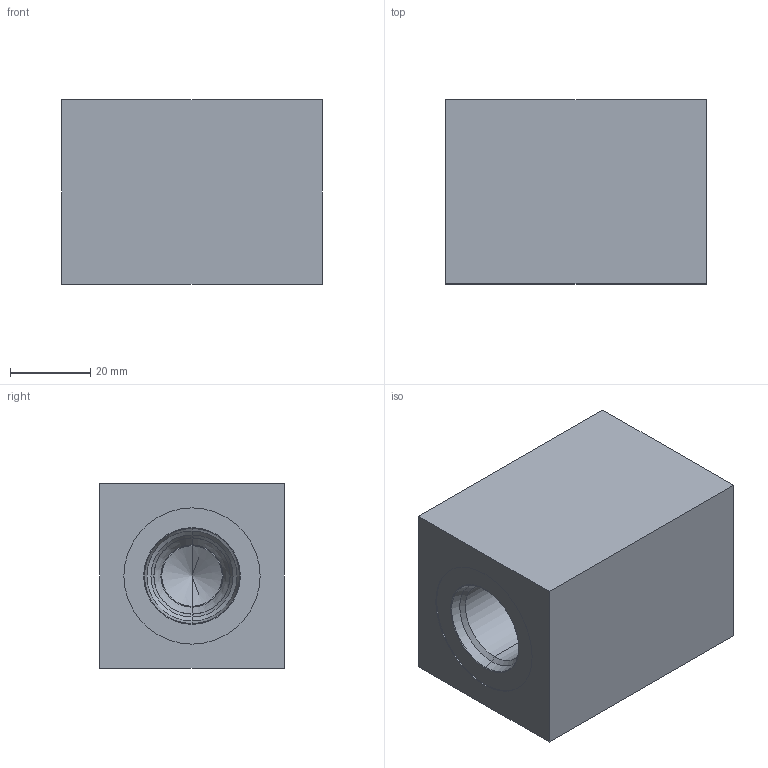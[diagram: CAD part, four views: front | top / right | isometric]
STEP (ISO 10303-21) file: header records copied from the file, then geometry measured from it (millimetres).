
FILE_DESCRIPTION (( 'STEP AP214' ), '1' );
FILE_NAME ('2.13-1007_ISO 7789–22–07–0–98.STEP', '2021-12-17T09:48:20', ( '' ), ( '' ), 'SwSTEP 2.0', 'SolidWorks 2020', '' );
FILE_SCHEMA (( 'AUTOMOTIVE_DESIGN' ));
Length unit declared in the file: millimetre
Products named in the file (1): 2.13-1007_ISO 7789–22–07–0–98
Bounding box: 65 x 46 x 46 mm (x, y, z)
Volume: 120232.4 mm3; surface area: 19584.1 mm2
Topology: 1 solids, 1 shells, 34 faces, 70 edges, 39 vertices
Faces by surface type: cone 10, cylinder 10, plane 8, torus 6
Entity records: 998 total; most frequent: DIRECTION 174, CARTESIAN_POINT 142, ORIENTED_EDGE 136, AXIS2_PLACEMENT_3D 71, EDGE_CURVE 68, VERTEX_POINT 39, EDGE_LOOP 37, CIRCLE 36
